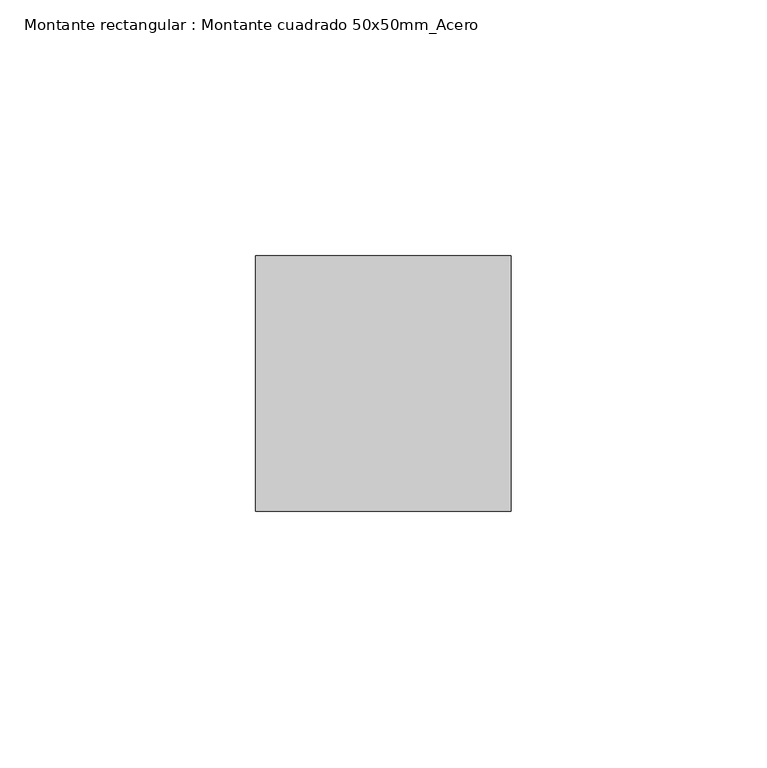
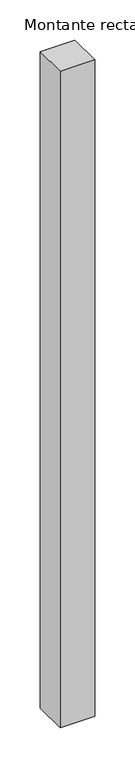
"""IFC4 building model written with IfcOpenShell, lengths in millimetres: member geometry, Montante rectangular : Montante cuadrado 50x50mm_Acero."""

from ifc_helpers import new_model, si_unit, frame, origin, place, context, project, spatial, polyline, outline, extrude, source, transform, mapped, element, save


def montante_rectangular_montante_cuadrado_50x50mm_acero_d515245e(model_context):
    return source(origin(), model_context, "Body", "SweptSolid", [
        extrude(outline(polyline([(0.0, 0.0), (0.0, -50.0), (-50.0, -50.0), (-50.0, 0.0), (0.0, 0.0)])), frame((0.0, 0.0, -1000.0), z_axis=(0.0, 0.0, 1.0), x_axis=(1.0, 0.0, 0.0)), (0.0, 0.0, 1.0), 1000.0),
    ])


if __name__ == "__main__":
    model = new_model("IFC4")
    model_context = context("Model", 3, world=origin())
    ifc_project = project(units=[si_unit("LENGTHUNIT", "METRE", prefix="MILLI")], contexts=[model_context])
    site = spatial("IfcSite", under=ifc_project)
    building = spatial("IfcBuilding", under=site)
    placement = place(None, origin())
    montante_rectangular_montante_cuadrado_50x50mm_acero_shape = montante_rectangular_montante_cuadrado_50x50mm_acero_d515245e(model_context)
    element("IfcMember", 1, ObjectType="Montante rectangular : Montante cuadrado 50x50mm_Acero", at=placement, inside=building, context=model_context, shape_type="MappedRepresentation", body=[
        mapped(montante_rectangular_montante_cuadrado_50x50mm_acero_shape, transform((0.0, 0.0, 0.0), x_axis=(1.0, 0.0, 0.0), y_axis=(0.0, 1.0, 0.0), z_axis=(0.0, 0.0, 1.0))),
    ])
    save(model, "model.ifc")
